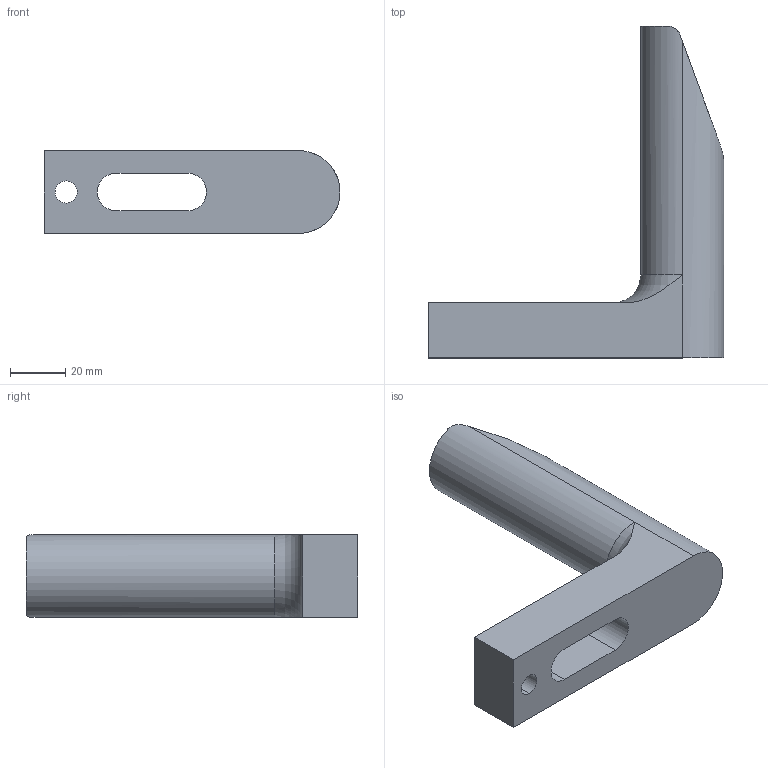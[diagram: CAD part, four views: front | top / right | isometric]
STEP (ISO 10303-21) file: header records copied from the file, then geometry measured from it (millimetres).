
FILE_DESCRIPTION(('CATIA V5 STEP Exchange'),'2;1');
FILE_NAME('C:\Users\Raffaele\Desktop\3D X SITO CF\702-705\GSB_OILLESS_M30101120\STEP-2.03\702-4.stp','2019-07-03T14:09:31+00:00',('none'),('none'),'CATIA Version 5 Release 20 GA (IN-10)','CATIA V5 STEP AP203','none');
FILE_SCHEMA(('CONFIG_CONTROL_DESIGN'));
Length unit declared in the file: millimetre
Products named in the file (1): 702-4
Bounding box: 107 x 120 x 30 mm (x, y, z)
Volume: 114517.5 mm3; surface area: 21335 mm2
Topology: 1 solids, 1 shells, 18 faces, 52 edges, 36 vertices
Faces by surface type: plane 9, cylinder 8, torus 1
Entity records: 745 total; most frequent: CARTESIAN_POINT 236, ORIENTED_EDGE 104, DIRECTION 77, EDGE_CURVE 52, VERTEX_POINT 36, AXIS2_PLACEMENT_3D 35, VECTOR 25, LINE 25
